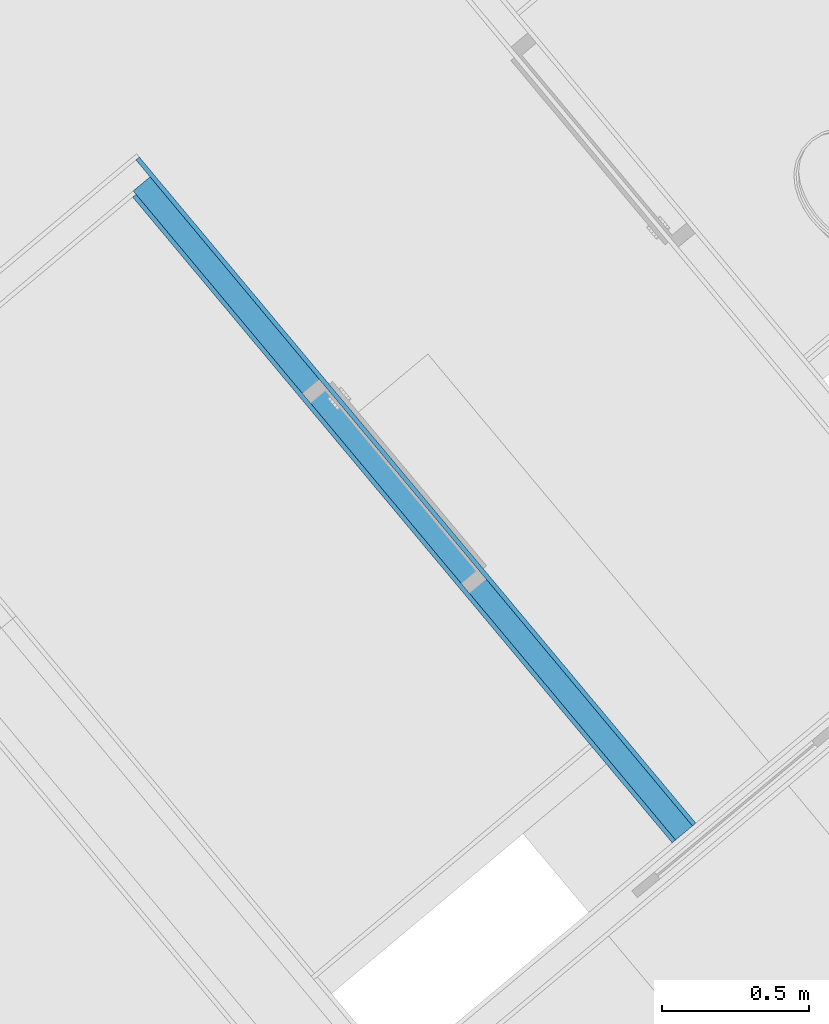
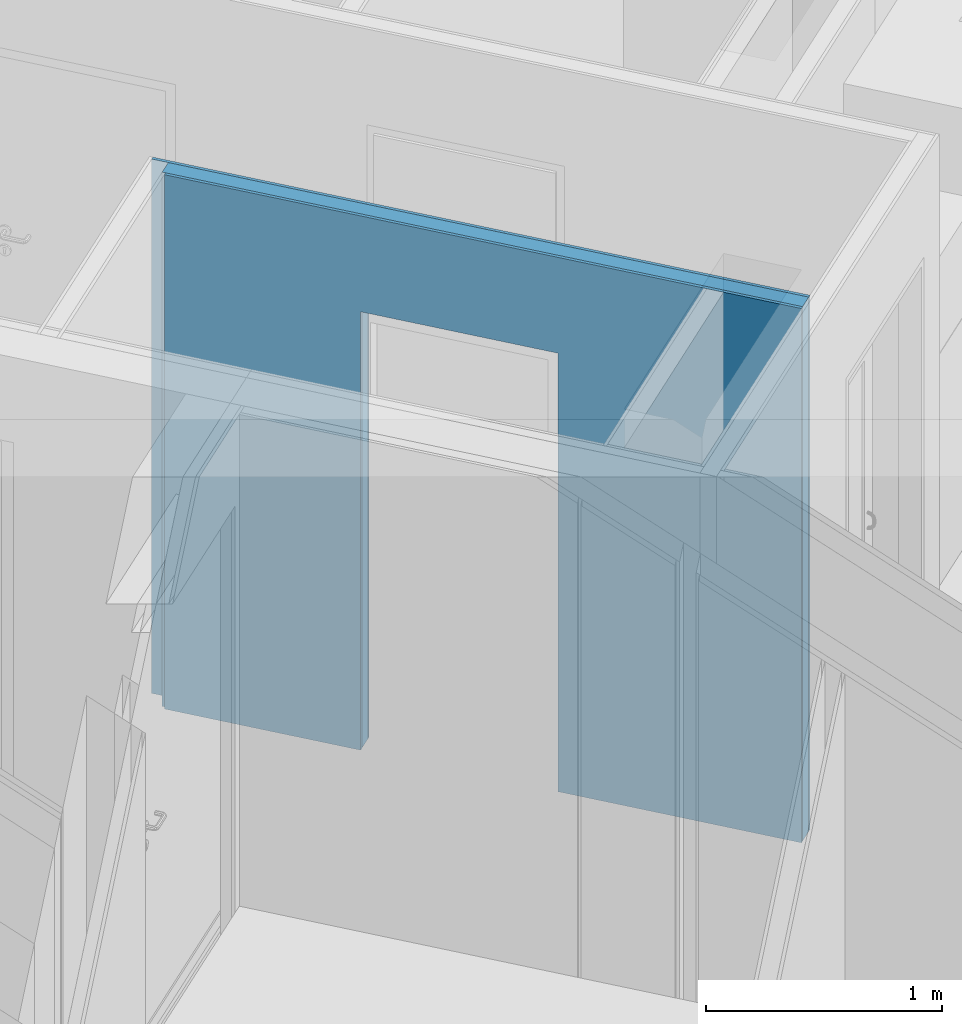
# One storey, part 6 of 67: 3 building element parts, 1 opening, 1 element without a shape of its own.
"""IFC4 building model written with IfcOpenShell, lengths in metres."""

import ifcopenshell
import ifcopenshell.guid

model = None  # the IFC model being written
_history = None  # IfcOwnerHistory: only IFC2X3 demands one
_inside = {}  # id of a spatial element -> (the spatial element, [elements in it])
_under = {}  # id of a project, library or spatial element -> (it, [spatial elements below it])
_declared = {}  # id of a project -> (the project, [libraries it declares])
_typed = {}  # id of a type object -> (the type object, [elements of that type])
_made_of = {}  # id of a material, layer set ... -> (it, [elements and type objects made of it])


def new_model(schema):
    """Start an empty IFC model of exactly this schema.

    Asked for "IFC4X3", IfcOpenShell would pick the latest addendum, in which some entities
    have other attributes; the version numbers below select the first issue.
    IFC2X3 requires an IfcOwnerHistory on every rooted entity: one is made here for all.
    """
    global model, _history
    if schema == "IFC4X3":
        model = ifcopenshell.file(schema_version=(4, 3, 0, 0))
    else:
        model = ifcopenshell.file(schema=schema)
    _inside.clear()
    _under.clear()
    _declared.clear()
    _typed.clear()
    _made_of.clear()
    _history = None
    if model.schema == "IFC2X3":
        org = make("IfcOrganization", Name="unknown")
        user = make(
            "IfcPersonAndOrganization",
            ThePerson=make("IfcPerson", FamilyName="unknown"),
            TheOrganization=org,
        )
        app = make(
            "IfcApplication",
            ApplicationDeveloper=org,
            Version="unknown",
            ApplicationFullName="unknown",
            ApplicationIdentifier="unknown",
        )
        _history = make(
            "IfcOwnerHistory",
            OwningUser=user,
            OwningApplication=app,
            ChangeAction="ADDED",
            CreationDate=0,
        )
    return model


def make(cls, **values):
    """One entity of the class cls with the attributes given. An attribute that is None is left unset."""
    return model.create_entity(
        cls, **{name: value for name, value in values.items() if value is not None}
    )


def entity(cls, *values):
    """Any entity or typed value of the class cls, its attributes in the order of the schema. None: left unset."""
    e = model.create_entity(cls)
    for i, value in enumerate(values):
        if value is not None:
            e[i] = value
    return e


def rooted(cls, **values):
    """An entity with a GlobalId (a new one), such as an element, a storey or a relation."""
    return make(cls, GlobalId=ifcopenshell.guid.new(), OwnerHistory=_history, **values)


def si_unit(unit_type, name, prefix=None):
    """IfcSIUnit, for example si_unit("LENGTHUNIT", "METRE", prefix="MILLI")."""
    return make("IfcSIUnit", UnitType=unit_type, Prefix=prefix, Name=name)


def converted_unit(unit_type, name, factor, base, dimensions=None, offset=None):
    """IfcConversionBasedUnit, such as the inch: factor (a typed value) times the base unit."""
    return make(
        "IfcConversionBasedUnit"
        if offset is None
        else "IfcConversionBasedUnitWithOffset",
        ConversionOffset=offset,
        Dimensions=None
        if dimensions is None
        else entity("IfcDimensionalExponents", *dimensions),
        UnitType=unit_type,
        Name=name,
        ConversionFactor=make(
            "IfcMeasureWithUnit", ValueComponent=factor, UnitComponent=base
        ),
    )


def derived_unit(unit_type, elements):
    """IfcDerivedUnit: a product of units, each with its exponent."""
    return make(
        "IfcDerivedUnit",
        Elements=[
            make("IfcDerivedUnitElement", Unit=unit, Exponent=power)
            for unit, power in elements
        ],
        UnitType=unit_type,
    )


def assignment(units):
    """IfcUnitAssignment: the units of a project."""
    return None if units is None else make("IfcUnitAssignment", Units=units)


def point(xyz):
    """IfcCartesianPoint."""
    return None if xyz is None else make("IfcCartesianPoint", Coordinates=xyz)


def direction(xyz):
    """IfcDirection."""
    return None if xyz is None else make("IfcDirection", DirectionRatios=xyz)


def frame(location, z_axis=None, x_axis=None):
    """IfcAxis2Placement3D, a coordinate frame: its origin and axes. An axis left out is left unset."""
    return make(
        "IfcAxis2Placement3D",
        Location=point(location),
        Axis=direction(z_axis),
        RefDirection=direction(x_axis),
    )


def origin_with_axes():
    """The frame at (0, 0, 0) with the z axis (0, 0, 1) and the x axis (1, 0, 0) written out."""
    return frame((0.0, 0.0, 0.0), z_axis=(0.0, 0.0, 1.0), x_axis=(1.0, 0.0, 0.0))


def place(relative_to, where):
    """IfcLocalPlacement: puts the frame where relative to a parent placement (None: the world)."""
    return make(
        "IfcLocalPlacement", PlacementRelTo=relative_to, RelativePlacement=where
    )


def context(
    kind, dimensions, precision=None, world=None, true_north=None, identifier=None
):
    """IfcGeometricRepresentationContext, for example the 3D "Model" context."""
    return make(
        "IfcGeometricRepresentationContext",
        ContextIdentifier=identifier,
        ContextType=kind,
        CoordinateSpaceDimension=dimensions,
        Precision=precision,
        WorldCoordinateSystem=world,
        TrueNorth=true_north,
    )


def subcontext(parent, identifier, kind, view, scale=None):
    """IfcGeometricRepresentationSubContext, for example "Body" below "Model"."""
    return make(
        "IfcGeometricRepresentationSubContext",
        ContextIdentifier=identifier,
        ContextType=kind,
        ParentContext=parent,
        TargetScale=scale,
        TargetView=view,
    )


def project(units=None, contexts=None):
    """IfcProject with its units and contexts."""
    return rooted(
        "IfcProject",
        Name="project",
        RepresentationContexts=contexts,
        UnitsInContext=assignment(units),
    )


def spatial(cls, under=None, at=None, **own):
    """A site, building, storey or space (cls), placed at a placement, below another one or the project."""
    s = rooted(cls, ObjectPlacement=at, **own)
    if under is not None:
        _under.setdefault(under.id(), (under, []))[1].append(s)
    return s


def point_list(points):
    """IfcCartesianPointList2D or 3D."""
    cls = (
        "IfcCartesianPointList2D" if len(points[0]) == 2 else "IfcCartesianPointList3D"
    )
    return make(cls, CoordList=points)


def polygons(points, faces, closed=None, point_numbers=None):
    """IfcPolygonalFaceSet: a face is its outer loop, then its inner loops; points numbered from 1."""
    made = []
    for loops in faces:
        if len(loops) == 1:
            made.append(make("IfcIndexedPolygonalFace", CoordIndex=loops[0]))
        else:
            made.append(
                make(
                    "IfcIndexedPolygonalFaceWithVoids",
                    CoordIndex=loops[0],
                    InnerCoordIndices=loops[1:],
                )
            )
    return make(
        "IfcPolygonalFaceSet",
        Coordinates=point_list(points),
        Closed=closed,
        Faces=made,
        PnIndex=point_numbers,
    )


def shape(context_of_items, identifier, shape_type, items):
    """IfcShapeRepresentation: the items that make up one representation, for example the "Body"."""
    return make(
        "IfcShapeRepresentation",
        ContextOfItems=context_of_items,
        RepresentationIdentifier=identifier,
        RepresentationType=shape_type,
        Items=items,
    )


def material(Name=None, Category=None):
    """IfcMaterial."""
    return make("IfcMaterial", Name=Name, Category=Category)


def made_of(thing, what):
    """Note that an element or type object is made of a material, layer set ...; save() writes the relation."""
    if what is not None:
        _made_of.setdefault(what.id(), (what, []))[1].append(thing)
    return thing


def type_object(cls, material=None, **own):
    """A type object (cls), such as IfcWallType, which elements share."""
    return made_of(rooted(cls, **own), material)


def element(
    cls,
    number,
    at=None,
    inside=None,
    cuts=None,
    type_object=None,
    material=None,
    context=None,
    identifier="Body",
    shape_type=None,
    held_by="IfcProductDefinitionShape",
    body=None,
    shapes=None,
    **own,
):
    """One element of the class cls, such as IfcWall. Its Tag is "e" and its number.

    at: its placement. inside: the storey or other place that contains it. cuts: it is an
    opening in that element (IfcRelVoidsElement). A single representation is given by context,
    identifier, shape_type and body (its items); several are given by shapes. held_by: the class
    of the entity that holds the representations. save() writes the other relations.
    """
    e = rooted(cls, Tag="e%d" % number, ObjectPlacement=at, **own)
    if body is not None:
        shapes = [shape(context, identifier, shape_type, body)]
    if shapes is not None:
        e.Representation = make(held_by, Representations=shapes)
    if inside is not None:
        _inside.setdefault(inside.id(), (inside, []))[1].append(e)
    if cuts is not None:
        rooted(
            "IfcRelVoidsElement", RelatingBuildingElement=cuts, RelatedOpeningElement=e
        )
    if type_object is not None:
        _typed.setdefault(type_object.id(), (type_object, []))[1].append(e)
    return made_of(e, material)


def aggregate(whole, parts):
    """IfcRelAggregates: a whole, such as a stair, and the parts it consists of."""
    return rooted("IfcRelAggregates", RelatingObject=whole, RelatedObjects=parts)


def save(model, path):
    """Write the relations noted so far, then the file.

    IfcRelAggregates (storeys below a building ...), IfcRelContainedInSpatialStructure (elements
    in a storey), IfcRelDefinesByType, IfcRelAssociatesMaterial and IfcRelDeclares: one each for
    every whole, place, type object, material and project.
    """
    for whole, parts in _under.values():
        aggregate(whole, parts)
    for where, things in _inside.values():
        rooted(
            "IfcRelContainedInSpatialStructure",
            RelatedElements=things,
            RelatingStructure=where,
        )
    for kind, things in _typed.values():
        rooted("IfcRelDefinesByType", RelatedObjects=things, RelatingType=kind)
    for what, things in _made_of.values():
        rooted("IfcRelAssociatesMaterial", RelatedObjects=things, RelatingMaterial=what)
    for by, libraries in _declared.values():
        rooted("IfcRelDeclares", RelatingContext=by, RelatedDefinitions=libraries)
    model.write(path)


model = new_model("IFC4")

# Units and contexts
model_context = context("Model", 3, precision=1e-05, world=origin_with_axes(), true_north=direction((0.0, 1.0)))
body_context = subcontext(model_context, "Body", "Model", "MODEL_VIEW")
ifc_project = project(units=[si_unit("LENGTHUNIT", "METRE"), si_unit("AREAUNIT", "SQUARE_METRE"), si_unit("VOLUMEUNIT", "CUBIC_METRE"), converted_unit("PLANEANGLEUNIT", "DEGREE", entity("IfcPlaneAngleMeasure", 0.0174532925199), si_unit("PLANEANGLEUNIT", "RADIAN"), dimensions=[0, 0, 0, 0, 0, 0, 0]), converted_unit("TIMEUNIT", "Year", entity("IfcTimeMeasure", 31556926.0), si_unit("TIMEUNIT", "SECOND"), dimensions=[0, 0, 1, 0, 0, 0, 0]), si_unit("MASSUNIT", "GRAM", prefix="KILO"), si_unit("THERMODYNAMICTEMPERATUREUNIT", "DEGREE_CELSIUS"), si_unit("LUMINOUSINTENSITYUNIT", "LUMEN"), si_unit("ENERGYUNIT", "JOULE", prefix="MEGA"), derived_unit("THERMALCONDUCTANCEUNIT", [(si_unit("POWERUNIT", "WATT"), 1), (si_unit("LENGTHUNIT", "METRE"), -1), (si_unit("THERMODYNAMICTEMPERATUREUNIT", "KELVIN"), -1)]), derived_unit("SPECIFICHEATCAPACITYUNIT", [(si_unit("ENERGYUNIT", "JOULE"), 1), (si_unit("MASSUNIT", "GRAM", prefix="KILO"), -1), (si_unit("THERMODYNAMICTEMPERATUREUNIT", "KELVIN"), -1)]), derived_unit("MASSDENSITYUNIT", [(si_unit("MASSUNIT", "GRAM", prefix="KILO"), 1), (si_unit("VOLUMEUNIT", "CUBIC_METRE"), -1)])], contexts=[model_context])

# Site, building, storey
site_placement = place(None, frame((-0.00153261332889, -0.00661245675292, 0.0), z_axis=(0.0, 0.0, 1.0), x_axis=(1.0, 0.0, 0.0)))
site = spatial("IfcSite", under=ifc_project, at=site_placement, Name="Site", CompositionType="ELEMENT")
building_placement = place(site_placement, origin_with_axes())
building = spatial("IfcBuilding", under=site, at=building_placement, Name="Building", CompositionType="ELEMENT")
storey_placement = place(building_placement, frame((0.0, 0.0, -0.22), z_axis=(0.0, 0.0, 1.0), x_axis=(1.0, 0.0, 0.0)))
storey = spatial("IfcBuildingStorey", under=building, at=storey_placement, Name="EG", CompositionType="ELEMENT", Elevation=-0.22)

# Wall, opening, building element parts
wall_type = type_object("IfcWallType", Name="IW LB 01 Leichtbautrennwand einfach 10,5 cm 105", PredefinedType="NOTDEFINED")
wall_placement = place(storey_placement, frame((3.83651471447, 23.8286993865, 0.0), z_axis=(0.0, 0.0, 1.0), x_axis=(0.641209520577, -0.767365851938, 0.0)))
wall = element("IfcWall", 1, at=wall_placement, inside=storey, type_object=wall_type, Name="Wand-012", PredefinedType="NOTDEFINED")
opening_placement = place(wall_placement, frame((1.32968654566, 0.0, 0.22), z_axis=(0.0, 0.0, 1.0), x_axis=(1.0, 0.0, 0.0)))
element("IfcOpeningElement", 2, at=opening_placement, cuts=wall, Name="Tür-015", context=body_context, identifier="Reference", shape_type="Tessellation", body=[
    polygons([(-0.445, -1.46532995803, 2.045), (-0.445, -1.46532995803, -0.22), (0.445, -1.46532995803, -0.22), (0.445, -1.46532995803, 2.045), (-0.445, 1.57032995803, 2.045), (-0.445, 1.57032995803, -0.22), (0.445, 1.57032995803, -0.22), (0.445, 1.57032995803, 2.045)], [[[1, 2, 3, 4]], [[5, 6, 2, 1]], [[6, 7, 3, 2]], [[7, 8, 4, 3]], [[8, 5, 1, 4]], [[7, 6, 5, 8]]], closed=True),
])
ifc_material_1 = material(Name="Gipskarton")
building_element_part_1_placement = place(wall_placement, origin_with_axes())
building_element_part_1 = element("IfcBuildingElementPart", 3, at=building_element_part_1_placement, material=ifc_material_1, Name="Gipskarton", PredefinedType="NOTDEFINED", context=body_context, shape_type="Tessellation", body=[
    polygons([(0.884686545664, 0.105, 2.265), (0.884686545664, 0.105, 0.22), (0.884686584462, 0.105, 0.0), (-0.0899999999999, 0.105, 0.0), (-0.0899999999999, 0.105, 2.76), (2.87109056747, 0.105, 2.76), (2.87109056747, 0.105, 0.0), (1.77468654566, 0.105, 0.0), (1.77468654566, 0.105, 0.22), (1.77468654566, 0.105, 2.265), (0.884686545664, 0.09, 2.265), (0.884686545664, 0.09, 0.22), (0.884686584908, 0.09, 0.0), (-0.0899999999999, 0.09, 0.0), (-0.0899999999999, 0.09, 2.76), (2.8710811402, 0.09, 2.76), (2.8710811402, 0.09, 0.0), (1.77468654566, 0.09, 0.0), (1.77468654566, 0.09, 0.22), (1.77468654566, 0.09, 2.265)], [[[1, 2, 3, 4, 5, 6, 7, 8, 9, 10]], [[2, 1, 11, 12]], [[2, 12, 13, 3]], [[13, 14, 4, 3]], [[5, 4, 14, 15]], [[5, 15, 16, 6]], [[16, 17, 7, 6]], [[8, 7, 17, 18]], [[19, 9, 8, 18]], [[10, 9, 19, 20]], [[1, 10, 20, 11]], [[20, 19, 18, 17, 16, 15, 14, 13, 12, 11]]], closed=True),
])
ifc_material_2 = material(Name="Mineralwolle weich")
building_element_part_2_placement = place(wall_placement, origin_with_axes())
building_element_part_2 = element("IfcBuildingElementPart", 4, at=building_element_part_2_placement, material=ifc_material_2, Name="Mineralwolle weich", PredefinedType="NOTDEFINED", context=body_context, shape_type="Tessellation", body=[
    polygons([(0.884686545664, 0.09, 2.265), (0.884686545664, 0.09, 0.22), (0.884686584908, 0.09, 0.0), (-0.0149999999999, 0.09, 0.0), (-0.0149999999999, 0.09, 2.76), (2.8710811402, 0.09, 2.76), (2.8710811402, 0.09, 0.0), (1.77468654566, 0.09, 0.0), (1.77468654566, 0.09, 0.22), (1.77468654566, 0.09, 2.265), (0.884686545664, 0.015, 2.265), (0.884686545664, 0.015, 0.22), (0.88468658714, 0.015, 0.0), (-0.015, 0.015, 0.0), (-0.015, 0.015, 2.76), (2.87103400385, 0.015, 2.76), (2.87103400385, 0.015, 0.0), (1.77468654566, 0.015, 0.0), (1.77468654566, 0.015, 0.22), (1.77468654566, 0.015, 2.265)], [[[1, 2, 3, 4, 5, 6, 7, 8, 9, 10]], [[2, 1, 11, 12]], [[2, 12, 13, 3]], [[13, 14, 4, 3]], [[5, 4, 14, 15]], [[5, 15, 16, 6]], [[16, 17, 7, 6]], [[8, 7, 17, 18]], [[19, 9, 8, 18]], [[10, 9, 19, 20]], [[1, 10, 20, 11]], [[20, 19, 18, 17, 16, 15, 14, 13, 12, 11]]], closed=True),
])
building_element_part_3_placement = place(wall_placement, origin_with_axes())
building_element_part_3 = element("IfcBuildingElementPart", 5, at=building_element_part_3_placement, material=ifc_material_1, Name="Gipskarton", PredefinedType="NOTDEFINED", context=body_context, shape_type="Tessellation", body=[
    polygons([(0.884686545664, 0.015, 2.265), (0.884686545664, 0.015, 0.22), (0.88468658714, 0.015, 0.0), (0.0, 0.015, 0.0), (0.0, 0.015, 2.76), (2.87103400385, 0.015, 2.76), (2.87103400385, 0.015, 0.0), (1.77468654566, 0.015, 0.0), (1.77468654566, 0.015, 0.22), (1.77468654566, 0.015, 2.265), (0.884686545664, -9.05944830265e-09, 2.265), (0.884686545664, -2.05159622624e-09, 0.22), (0.884686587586, -2.05159622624e-09, 0.0), (0.0, 0.0, 0.0), (0.0, 0.0, 2.76), (2.5204506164, 0.0, 2.76), (2.87102457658, 0.0, 2.76), (2.87102457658, 0.0, 0.0), (1.77468654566, -9.05944830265e-09, 0.0), (1.77468654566, -9.05945185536e-09, 0.22), (1.77468654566, -9.05944830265e-09, 2.265)], [[[1, 2, 3, 4, 5, 6, 7, 8, 9, 10]], [[2, 1, 11, 12]], [[2, 12, 13, 3]], [[13, 14, 4, 3]], [[5, 4, 14, 15]], [[15, 16, 17, 6, 5]], [[17, 18, 7, 6]], [[8, 7, 18, 19]], [[20, 9, 8, 19]], [[10, 9, 20, 21]], [[1, 10, 21, 11]], [[21, 20, 19, 18, 17, 16, 15, 14, 13, 12, 11]]], closed=True),
])
aggregate(wall, [building_element_part_1, building_element_part_2, building_element_part_3])

save(model, "model.ifc")
